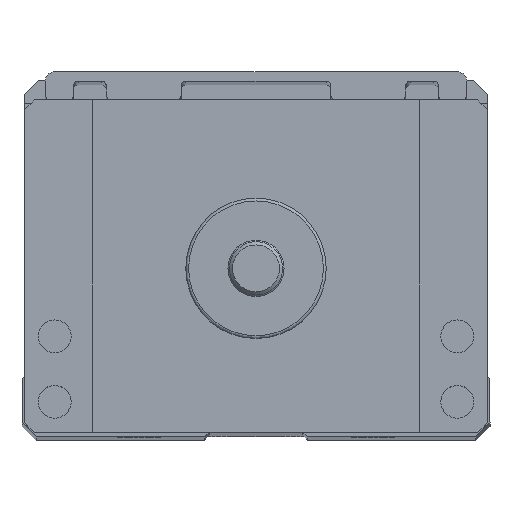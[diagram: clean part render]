
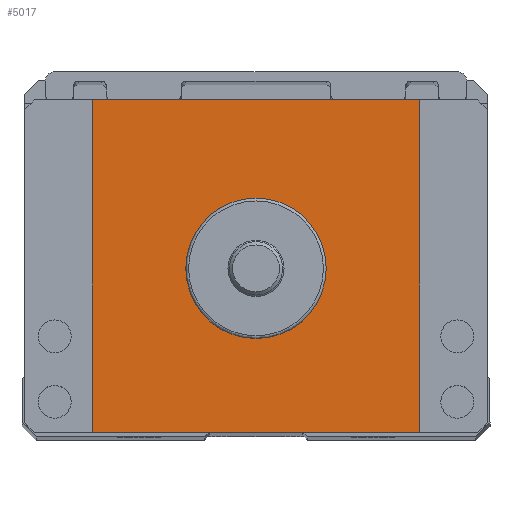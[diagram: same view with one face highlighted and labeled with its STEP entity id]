
A CAD part, top view. The second image highlights one B-rep face of the part: STEP entity #5017.
In plain terms, the highlighted planar face has unit normal (0, 0, 1).
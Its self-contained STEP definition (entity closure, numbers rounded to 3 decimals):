
#3761=FACE_BOUND('',#6603,.T.);
#3762=FACE_BOUND('',#6604,.T.);
#4420=CIRCLE('',#15236,7.5);
#5017=ADVANCED_FACE('',(#3761,#3762),#5580,.T.);
#5580=PLANE('',#15237);
#6603=EDGE_LOOP('',(#8649));
#6604=EDGE_LOOP('',(#8650,#8651,#8652,#8653));
#8649=ORIENTED_EDGE('',*,*,#12079,.T.);
#8650=ORIENTED_EDGE('',*,*,#12080,.T.);
#8651=ORIENTED_EDGE('',*,*,#12081,.T.);
#8652=ORIENTED_EDGE('',*,*,#12076,.T.);
#8653=ORIENTED_EDGE('',*,*,#12082,.T.);
#10749=VERTEX_POINT('',#20800);
#10750=VERTEX_POINT('',#20802);
#10752=VERTEX_POINT('',#20808);
#10753=VERTEX_POINT('',#20810);
#10754=VERTEX_POINT('',#20811);
#12076=EDGE_CURVE('',#10750,#10749,#13425,.T.);
#12079=EDGE_CURVE('',#10752,#10752,#4420,.T.);
#12080=EDGE_CURVE('',#10753,#10754,#13427,.T.);
#12081=EDGE_CURVE('',#10754,#10750,#13428,.T.);
#12082=EDGE_CURVE('',#10749,#10753,#13429,.T.);
#13425=LINE('',#20801,#14352);
#13427=LINE('',#20809,#14354);
#13428=LINE('',#20812,#14355);
#13429=LINE('',#20813,#14356);
#14352=VECTOR('',#17475,1.);
#14354=VECTOR('',#17483,1.);
#14355=VECTOR('',#17484,1.);
#14356=VECTOR('',#17485,1.);
#15236=AXIS2_PLACEMENT_3D('',#20807,#17481,#17482);
#15237=AXIS2_PLACEMENT_3D('',#20814,#17486,#17487);
#17475=DIRECTION('',(-1.,0.,0.));
#17481=DIRECTION('',(0.,0.,-1.));
#17482=DIRECTION('',(1.,0.,0.));
#17483=DIRECTION('',(1.,0.,0.));
#17484=DIRECTION('',(0.,1.,0.));
#17485=DIRECTION('',(0.,-1.,0.));
#17486=DIRECTION('',(0.,0.,1.));
#17487=DIRECTION('',(1.,0.,0.));
#20800=CARTESIAN_POINT('',(182.5,-4.5,51.5));
#20801=CARTESIAN_POINT('',(224.7,-4.5,51.5));
#20802=CARTESIAN_POINT('',(217.5,-4.5,51.5));
#20807=CARTESIAN_POINT('',(200.,-22.5,51.5));
#20808=CARTESIAN_POINT('',(207.5,-22.5,51.5));
#20809=CARTESIAN_POINT('',(175.3,-40.,51.5));
#20810=CARTESIAN_POINT('',(182.5,-40.,51.5));
#20811=CARTESIAN_POINT('',(217.5,-40.,51.5));
#20812=CARTESIAN_POINT('',(217.5,-40.,51.5));
#20813=CARTESIAN_POINT('',(182.5,-40.,51.5));
#20814=CARTESIAN_POINT('',(224.7,-40.,51.5));
